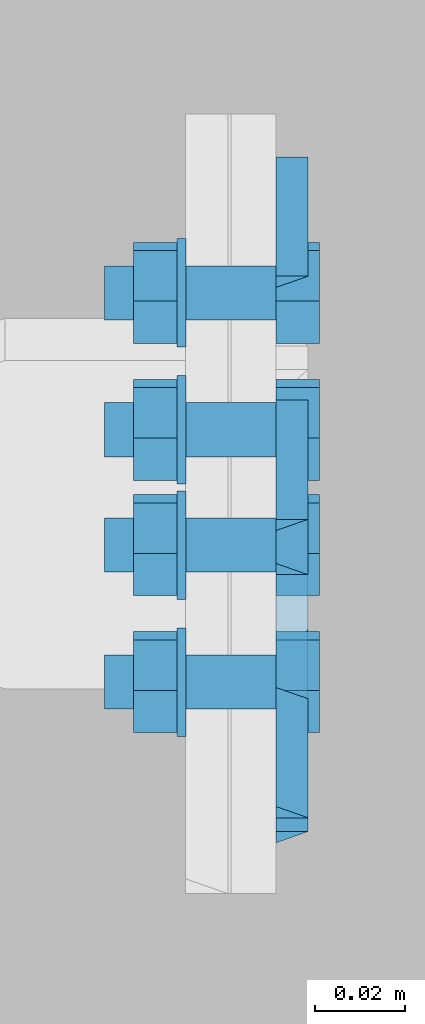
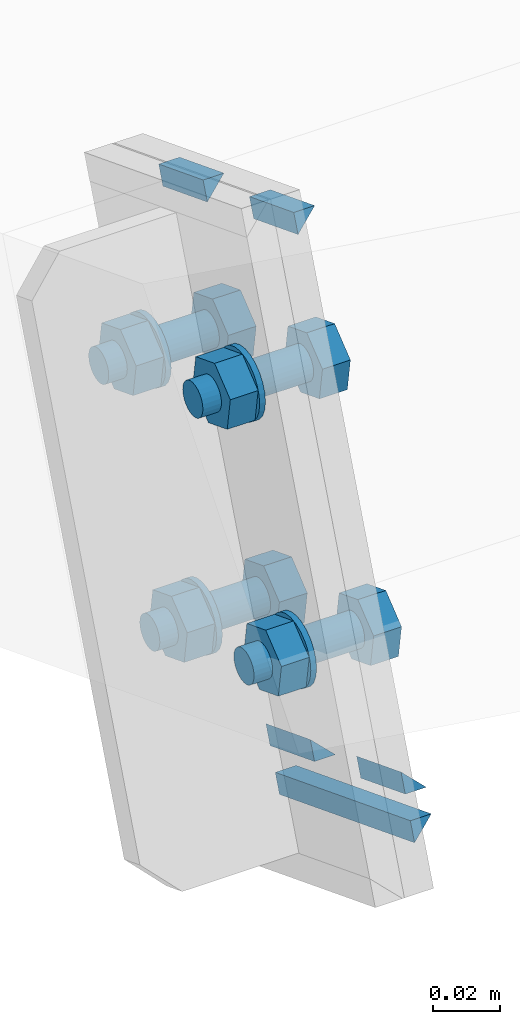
# One storey, part 30 of 72: 16 mechanical fasteners, 10 fasteners.
"""IFC4 building model written with IfcOpenShell, lengths in metres."""

from ifc_helpers import new_model, si_unit, frame, origin_with_axes, place, context, project, spatial, polyline, outline, extrude, type_object, element, save


model = new_model("IFC4")

# Units and contexts
model_context = context("Model", 3, precision=1e-05, world=origin_with_axes())
ifc_project = project(units=[si_unit("LENGTHUNIT", "METRE"), si_unit("AREAUNIT", "SQUARE_METRE"), si_unit("VOLUMEUNIT", "CUBIC_METRE"), si_unit("MASSUNIT", "GRAM", prefix="KILO"), si_unit("TIMEUNIT", "SECOND"), si_unit("PLANEANGLEUNIT", "RADIAN"), si_unit("SOLIDANGLEUNIT", "STERADIAN"), si_unit("THERMODYNAMICTEMPERATUREUNIT", "DEGREE_CELSIUS")], contexts=[model_context])

# Site, building, storey
placement_1 = place(None, origin_with_axes())
site = spatial("IfcSite", under=ifc_project, at=placement_1, Name="Italia", CompositionType="ELEMENT")
building = spatial("IfcBuilding", under=site, at=placement_1, Name="Uffici", CompositionType="ELEMENT")
storey = spatial("IfcBuildingStorey", under=building, at=placement_1, Name="Storey 0", CompositionType="ELEMENT", Elevation=0.0)

# Fasteners
fastener_type_1 = type_object("IfcFastenerType", Name="Collegamento -016_-017", PredefinedType="WELD")
placement_2 = place(placement_1, origin_with_axes())
fastener_1_placement = place(placement_2, origin_with_axes())
element("IfcFastener", 1, at=fastener_1_placement, inside=storey, type_object=fastener_type_1, Name="Collegamento -016_-017", context=model_context, shape_type="SweptSolid", body=[
    extrude(outline(polyline([(0.0, 0.0), (-0.00717336, 0.00695801), (0.0, 0.00695801), (0.0, 0.0)])), frame((0.07495, 3.27485, 5.95364), z_axis=(0.0, 0.93237841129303, -0.361483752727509), x_axis=(-1.0, 0.0, 0.0)), (0.0, 0.0, 1.0), 0.0283002),
])
fastener_type_2 = type_object("IfcFastenerType", Name="Collegamento -016_-017", PredefinedType="WELD")
fastener_2_placement = place(placement_2, origin_with_axes())
element("IfcFastener", 2, at=fastener_2_placement, inside=storey, type_object=fastener_type_2, Name="Collegamento -016_-017", context=model_context, shape_type="SweptSolid", body=[
    extrude(outline(polyline([(0.0, 0.0), (0.00717336, -0.00695801), (0.0, -0.00695801), (0.0, 0.0)])), frame((0.07495, 3.24008, 5.78566), z_axis=(0.0, -0.932389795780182, 0.361454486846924), x_axis=(1.0, 0.0, 0.0)), (0.0, 0.0, 1.0), 0.0282999),
])
fastener_type_3 = type_object("IfcFastenerType", Name="Collegamento -016_-017", PredefinedType="WELD")
fastener_3_placement = place(placement_2, origin_with_axes())
element("IfcFastener", 3, at=fastener_3_placement, inside=storey, type_object=fastener_type_3, Name="Collegamento -016_-017", context=model_context, shape_type="SweptSolid", body=[
    extrude(outline(polyline([(0.0, 0.0), (-0.00717336, 0.00695848), (0.0, 0.00695848), (0.0, 0.0)])), frame((0.07495, 3.15174, 5.79598), z_axis=(0.0, 0.932387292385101, -0.361460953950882), x_axis=(-1.0, 0.0, 0.0)), (0.0, 0.0, 1.0), 0.0860998),
])
fastener_type_4 = type_object("IfcFastenerType", Name="Collegamento -016_-017", PredefinedType="WELD")
fastener_4_placement = place(placement_2, origin_with_axes())
element("IfcFastener", 4, at=fastener_4_placement, inside=storey, type_object=fastener_type_4, Name="Collegamento -016_-017", context=model_context, shape_type="SweptSolid", body=[
    extrude(outline(polyline([(0.0, 0.0), (0.00717336, -0.00695753), (0.0, -0.00695753), (0.0, 0.0)])), frame((0.07495, 3.18619, 5.80655), z_axis=(0.0, -0.932380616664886, 0.361478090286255), x_axis=(1.0, 0.0, 0.0)), (0.0, 0.0, 1.0), 0.0283007),
])
fastener_type_5 = type_object("IfcFastenerType", Name="Collegamento -016_-017", PredefinedType="WELD")
fastener_5_placement = place(placement_2, origin_with_axes())
element("IfcFastener", 5, at=fastener_5_placement, inside=storey, type_object=fastener_type_5, Name="Collegamento -016_-017", context=model_context, shape_type="SweptSolid", body=[
    extrude(outline(polyline([(0.0, 0.0), (-0.00717336, 0.00695801), (0.0, 0.00695801), (0.0, 0.0)])), frame((0.07495, 3.22096, 5.97453), z_axis=(0.0, 0.932388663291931, -0.361457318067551), x_axis=(-1.0, 0.0, 0.0)), (0.0, 0.0, 1.0), 0.0282996),
])
fastener_type_6 = type_object("IfcFastenerType", Name="Collegamento -016_-017", PredefinedType="WELD")
fastener_6_placement = place(placement_2, origin_with_axes())
element("IfcFastener", 6, at=fastener_6_placement, inside=storey, type_object=fastener_type_6, Name="Collegamento -016_-017", context=model_context, shape_type="SweptSolid", body=[
    extrude(outline(polyline([(0.0, 0.0), (-0.00717336, 0.00695801), (0.0, 0.00695801), (0.0, 0.0)])), frame((0.07495, 3.27485, 5.95364), z_axis=(0.0, 0.93237841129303, -0.361483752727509), x_axis=(-1.0, 0.0, 0.0)), (0.0, 0.0, 1.0), 0.0283002),
])
fastener_type_7 = type_object("IfcFastenerType", Name="Collegamento -016_-017", PredefinedType="WELD")
fastener_7_placement = place(placement_2, origin_with_axes())
element("IfcFastener", 7, at=fastener_7_placement, inside=storey, type_object=fastener_type_7, Name="Collegamento -016_-017", context=model_context, shape_type="SweptSolid", body=[
    extrude(outline(polyline([(0.0, 0.0), (0.00717336, -0.00695801), (0.0, -0.00695801), (0.0, 0.0)])), frame((0.07495, 3.24008, 5.78566), z_axis=(0.0, -0.932389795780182, 0.361454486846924), x_axis=(1.0, 0.0, 0.0)), (0.0, 0.0, 1.0), 0.0282999),
])
fastener_type_8 = type_object("IfcFastenerType", Name="Collegamento -016_-017", PredefinedType="WELD")
fastener_8_placement = place(placement_2, origin_with_axes())
element("IfcFastener", 8, at=fastener_8_placement, inside=storey, type_object=fastener_type_8, Name="Collegamento -016_-017", context=model_context, shape_type="SweptSolid", body=[
    extrude(outline(polyline([(0.0, 0.0), (-0.00717336, 0.00695848), (0.0, 0.00695848), (0.0, 0.0)])), frame((0.07495, 3.15174, 5.79598), z_axis=(0.0, 0.932387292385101, -0.361460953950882), x_axis=(-1.0, 0.0, 0.0)), (0.0, 0.0, 1.0), 0.0860998),
])
fastener_type_9 = type_object("IfcFastenerType", Name="Collegamento -016_-017", PredefinedType="WELD")
fastener_9_placement = place(placement_2, origin_with_axes())
element("IfcFastener", 9, at=fastener_9_placement, inside=storey, type_object=fastener_type_9, Name="Collegamento -016_-017", context=model_context, shape_type="SweptSolid", body=[
    extrude(outline(polyline([(0.0, 0.0), (0.00717336, -0.00695753), (0.0, -0.00695753), (0.0, 0.0)])), frame((0.07495, 3.18619, 5.80655), z_axis=(0.0, -0.932380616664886, 0.361478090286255), x_axis=(1.0, 0.0, 0.0)), (0.0, 0.0, 1.0), 0.0283007),
])
fastener_type_10 = type_object("IfcFastenerType", Name="Collegamento -016_-017", PredefinedType="WELD")
fastener_10_placement = place(placement_2, origin_with_axes())
element("IfcFastener", 10, at=fastener_10_placement, inside=storey, type_object=fastener_type_10, Name="Collegamento -016_-017", context=model_context, shape_type="SweptSolid", body=[
    extrude(outline(polyline([(0.0, 0.0), (-0.00717336, 0.00695801), (0.0, 0.00695801), (0.0, 0.0)])), frame((0.07495, 3.22096, 5.97453), z_axis=(0.0, 0.932388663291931, -0.361457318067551), x_axis=(-1.0, 0.0, 0.0)), (0.0, 0.0, 1.0), 0.0282996),
])

# Mechanical fasteners
mechanical_fastener_type_1 = type_object("IfcMechanicalFastenerType", Name="Collegamento -016_-017", PredefinedType="BOLT")
mechanical_fastener_1_placement = place(placement_2, origin_with_axes())
element("IfcMechanicalFastener", 11, at=mechanical_fastener_1_placement, inside=storey, type_object=mechanical_fastener_type_1, Name="Collegamento -016_-017", NominalDiameter=0.0119997, context=model_context, shape_type="SweptSolid", body=[
    extrude(outline(polyline([(0.0, 0.0), (-0.0111887, 0.00433779), (-0.0130265, 0.0161963), (-0.00367594, 0.0237169), (0.00751281, 0.0193796), (0.00935078, 0.00752115), (0.0, 0.0)])), frame((0.075, 3.18921, 5.83992), z_axis=(1.0, 0.0, 0.0), x_axis=(0.0, 1.0, 0.0)), (0.0, 0.0, 1.0), 0.0096),
])
mechanical_fastener_type_2 = type_object("IfcMechanicalFastenerType", Name="Collegamento -016_-017", PredefinedType="BOLT")
mechanical_fastener_2_placement = place(placement_2, origin_with_axes())
element("IfcMechanicalFastener", 12, at=mechanical_fastener_2_placement, inside=storey, type_object=mechanical_fastener_type_2, Name="Collegamento -016_-017", NominalDiameter=0.012, context=model_context, shape_type="SweptSolid", body=[
    extrude(outline(polyline([(0.0, 0.0), (-0.000204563, -0.00155306), (-0.000803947, -0.00299978), (-0.00175738, -0.00424242), (-0.00300002, -0.00519609), (-0.00444722, -0.00579548), (-0.00600004, -0.00600004), (-0.00755286, -0.00579548), (-0.00900006, -0.00519609), (-0.0102427, -0.00424242), (-0.0111961, -0.00299978), (-0.0117955, -0.00155306), (-0.0120001, 0.0), (-0.0117955, 0.00155306), (-0.0111961, 0.00299978), (-0.0102427, 0.00424242), (-0.00900006, 0.00519609), (-0.00755286, 0.00579548), (-0.00600004, 0.00600004), (-0.00444722, 0.00579548), (-0.00300002, 0.00519609), (-0.00175738, 0.00424242), (-0.000803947, 0.00299978), (-0.000204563, 0.00155306), (0.0, 0.0)])), frame((0.037, 3.19337, 5.85178), z_axis=(1.0, 0.0, 0.0), x_axis=(0.0, 1.0, 0.0)), (0.0, 0.0, 1.0), 0.038),
])
mechanical_fastener_type_3 = type_object("IfcMechanicalFastenerType", Name="Collegamento -016_-017", PredefinedType="BOLT")
mechanical_fastener_3_placement = place(placement_2, origin_with_axes())
element("IfcMechanicalFastener", 13, at=mechanical_fastener_3_placement, inside=storey, type_object=mechanical_fastener_type_3, Name="Collegamento -016_-017", NominalDiameter=0.0119997, context=model_context, shape_type="SweptSolid", body=[
    extrude(outline(polyline([(0.0, 0.0), (-0.0111887, 0.00433779), (-0.0130265, 0.0161963), (-0.00367594, 0.0237169), (0.00751281, 0.0193796), (0.00935078, 0.00752115), (0.0, 0.0)])), frame((0.0434, 3.18921, 5.83992), z_axis=(1.0, 0.0, 0.0), x_axis=(0.0, 1.0, 0.0)), (0.0, 0.0, 1.0), 0.0096),
])
mechanical_fastener_type_4 = type_object("IfcMechanicalFastenerType", Name="Collegamento -016_-017", PredefinedType="BOLT")
mechanical_fastener_4_placement = place(placement_2, origin_with_axes())
element("IfcMechanicalFastener", 14, at=mechanical_fastener_4_placement, inside=storey, type_object=mechanical_fastener_type_4, Name="Collegamento -016_-017", NominalDiameter=0.024, context=model_context, shape_type="SweptSolid", body=[
    extrude(outline(polyline([(0.0, 0.0), (-0.000408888, -0.00310564), (-0.00160789, -0.00600004), (-0.00351477, -0.00848532), (-0.00600004, -0.0103922), (-0.00889421, -0.011591), (-0.0120001, -0.0120001), (-0.015106, -0.011591), (-0.0180001, -0.0103922), (-0.0204854, -0.00848532), (-0.0223923, -0.00600004), (-0.0235913, -0.00310564), (-0.0240002, 0.0), (-0.0235913, 0.00310564), (-0.0223923, 0.00600004), (-0.0204854, 0.00848532), (-0.0180001, 0.0103922), (-0.015106, 0.011591), (-0.0120001, 0.0120001), (-0.00889421, 0.011591), (-0.00600004, 0.0103922), (-0.00351477, 0.00848532), (-0.00160789, 0.00600004), (-0.000408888, 0.00310564), (0.0, 0.0)])), frame((0.053, 3.19937, 5.85178), z_axis=(1.0, 0.0, 0.0), x_axis=(0.0, 1.0, 0.0)), (0.0, 0.0, 1.0), 0.002),
])
mechanical_fastener_type_5 = type_object("IfcMechanicalFastenerType", Name="Collegamento -016_-017", PredefinedType="BOLT")
mechanical_fastener_5_placement = place(placement_2, origin_with_axes())
element("IfcMechanicalFastener", 15, at=mechanical_fastener_5_placement, inside=storey, type_object=mechanical_fastener_type_5, Name="Collegamento -016_-017", NominalDiameter=0.0119999, context=model_context, shape_type="SweptSolid", body=[
    extrude(outline(polyline([(0.0, 0.0), (-0.0111887, 0.00433731), (-0.0130265, 0.0161958), (-0.00367594, 0.0237169), (0.00751281, 0.0193791), (0.00935078, 0.00752068), (0.0, 0.0)])), frame((0.075, 3.24515, 5.81823), z_axis=(1.0, 0.0, 0.0), x_axis=(0.0, 1.0, 0.0)), (0.0, 0.0, 1.0), 0.0096),
])
mechanical_fastener_type_6 = type_object("IfcMechanicalFastenerType", Name="Collegamento -016_-017", PredefinedType="BOLT")
mechanical_fastener_6_placement = place(placement_2, origin_with_axes())
element("IfcMechanicalFastener", 16, at=mechanical_fastener_6_placement, inside=storey, type_object=mechanical_fastener_type_6, Name="Collegamento -016_-017", NominalDiameter=0.012, context=model_context, shape_type="SweptSolid", body=[
    extrude(outline(polyline([(0.0, 0.0), (-0.000204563, -0.00155306), (-0.000803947, -0.00299978), (-0.00175738, -0.00424242), (-0.00300002, -0.00519609), (-0.00444722, -0.00579548), (-0.00600004, -0.00600004), (-0.00755286, -0.00579548), (-0.00900006, -0.00519609), (-0.0102427, -0.00424242), (-0.0111961, -0.00299978), (-0.0117955, -0.00155306), (-0.0120001, 0.0), (-0.0117955, 0.00155306), (-0.0111961, 0.00299978), (-0.0102427, 0.00424242), (-0.00900006, 0.00519609), (-0.00755286, 0.00579548), (-0.00600004, 0.00600004), (-0.00444722, 0.00579548), (-0.00300002, 0.00519609), (-0.00175738, 0.00424242), (-0.000803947, 0.00299978), (-0.000204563, 0.00155306), (0.0, 0.0)])), frame((0.037, 3.24931, 5.83009), z_axis=(1.0, 0.0, 0.0), x_axis=(0.0, 1.0, 0.0)), (0.0, 0.0, 1.0), 0.038),
])
mechanical_fastener_type_7 = type_object("IfcMechanicalFastenerType", Name="Collegamento -016_-017", PredefinedType="BOLT")
mechanical_fastener_7_placement = place(placement_2, origin_with_axes())
element("IfcMechanicalFastener", 17, at=mechanical_fastener_7_placement, inside=storey, type_object=mechanical_fastener_type_7, Name="Collegamento -016_-017", NominalDiameter=0.0119999, context=model_context, shape_type="SweptSolid", body=[
    extrude(outline(polyline([(0.0, 0.0), (-0.0111887, 0.00433731), (-0.0130265, 0.0161958), (-0.00367594, 0.0237169), (0.00751281, 0.0193791), (0.00935078, 0.00752068), (0.0, 0.0)])), frame((0.0434, 3.24515, 5.81823), z_axis=(1.0, 0.0, 0.0), x_axis=(0.0, 1.0, 0.0)), (0.0, 0.0, 1.0), 0.0096),
])
mechanical_fastener_type_8 = type_object("IfcMechanicalFastenerType", Name="Collegamento -016_-017", PredefinedType="BOLT")
mechanical_fastener_8_placement = place(placement_2, origin_with_axes())
element("IfcMechanicalFastener", 18, at=mechanical_fastener_8_placement, inside=storey, type_object=mechanical_fastener_type_8, Name="Collegamento -016_-017", NominalDiameter=0.024, context=model_context, shape_type="SweptSolid", body=[
    extrude(outline(polyline([(0.0, 0.0), (-0.000408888, -0.00310564), (-0.00160789, -0.00600004), (-0.00351477, -0.00848532), (-0.00600004, -0.0103922), (-0.00889421, -0.011591), (-0.0120001, -0.0120001), (-0.015106, -0.011591), (-0.0180001, -0.0103922), (-0.0204854, -0.00848532), (-0.0223923, -0.00600004), (-0.0235913, -0.00310564), (-0.0240002, 0.0), (-0.0235913, 0.00310564), (-0.0223923, 0.00600004), (-0.0204854, 0.00848532), (-0.0180001, 0.0103922), (-0.015106, 0.011591), (-0.0120001, 0.0120001), (-0.00889421, 0.011591), (-0.00600004, 0.0103922), (-0.00351477, 0.00848532), (-0.00160789, 0.00600004), (-0.000408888, 0.00310564), (0.0, 0.0)])), frame((0.053, 3.25531, 5.83009), z_axis=(1.0, 0.0, 0.0), x_axis=(0.0, 1.0, 0.0)), (0.0, 0.0, 1.0), 0.002),
])
mechanical_fastener_type_9 = type_object("IfcMechanicalFastenerType", Name="Collegamento -016_-017", PredefinedType="BOLT")
mechanical_fastener_9_placement = place(placement_2, origin_with_axes())
element("IfcMechanicalFastener", 19, at=mechanical_fastener_9_placement, inside=storey, type_object=mechanical_fastener_type_9, Name="Collegamento -016_-017", NominalDiameter=0.0119999, context=model_context, shape_type="SweptSolid", body=[
    extrude(outline(polyline([(0.0, 0.0), (-0.0111887, 0.00433779), (-0.0130267, 0.0161963), (-0.00367594, 0.0237169), (0.00751281, 0.0193796), (0.00935054, 0.00752115), (0.0, 0.0)])), frame((0.075, 3.21957, 5.91824), z_axis=(1.0, 0.0, 0.0), x_axis=(0.0, 1.0, 0.0)), (0.0, 0.0, 1.0), 0.0096),
])
mechanical_fastener_type_10 = type_object("IfcMechanicalFastenerType", Name="Collegamento -016_-017", PredefinedType="BOLT")
mechanical_fastener_10_placement = place(placement_2, origin_with_axes())
element("IfcMechanicalFastener", 20, at=mechanical_fastener_10_placement, inside=storey, type_object=mechanical_fastener_type_10, Name="Collegamento -016_-017", NominalDiameter=0.012, context=model_context, shape_type="SweptSolid", body=[
    extrude(outline(polyline([(0.0, 0.0), (-0.000204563, -0.00155306), (-0.000803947, -0.00299978), (-0.00175738, -0.00424242), (-0.00300002, -0.00519609), (-0.00444722, -0.00579548), (-0.00600004, -0.00600004), (-0.00755286, -0.00579548), (-0.00900006, -0.00519609), (-0.0102427, -0.00424242), (-0.0111961, -0.00299978), (-0.0117955, -0.00155306), (-0.0120001, 0.0), (-0.0117955, 0.00155306), (-0.0111961, 0.00299978), (-0.0102427, 0.00424242), (-0.00900006, 0.00519609), (-0.00755286, 0.00579548), (-0.00600004, 0.00600004), (-0.00444722, 0.00579548), (-0.00300002, 0.00519609), (-0.00175738, 0.00424242), (-0.000803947, 0.00299978), (-0.000204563, 0.00155306), (0.0, 0.0)])), frame((0.037, 3.22373, 5.9301), z_axis=(1.0, 0.0, 0.0), x_axis=(0.0, 1.0, 0.0)), (0.0, 0.0, 1.0), 0.038),
])
mechanical_fastener_type_11 = type_object("IfcMechanicalFastenerType", Name="Collegamento -016_-017", PredefinedType="BOLT")
mechanical_fastener_11_placement = place(placement_2, origin_with_axes())
element("IfcMechanicalFastener", 21, at=mechanical_fastener_11_placement, inside=storey, type_object=mechanical_fastener_type_11, Name="Collegamento -016_-017", NominalDiameter=0.0119999, context=model_context, shape_type="SweptSolid", body=[
    extrude(outline(polyline([(0.0, 0.0), (-0.0111887, 0.00433779), (-0.0130267, 0.0161963), (-0.00367594, 0.0237169), (0.00751281, 0.0193796), (0.00935054, 0.00752115), (0.0, 0.0)])), frame((0.0434, 3.21957, 5.91824), z_axis=(1.0, 0.0, 0.0), x_axis=(0.0, 1.0, 0.0)), (0.0, 0.0, 1.0), 0.0096),
])
mechanical_fastener_type_12 = type_object("IfcMechanicalFastenerType", Name="Collegamento -016_-017", PredefinedType="BOLT")
mechanical_fastener_12_placement = place(placement_2, origin_with_axes())
element("IfcMechanicalFastener", 22, at=mechanical_fastener_12_placement, inside=storey, type_object=mechanical_fastener_type_12, Name="Collegamento -016_-017", NominalDiameter=0.024, context=model_context, shape_type="SweptSolid", body=[
    extrude(outline(polyline([(0.0, 0.0), (-0.000408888, -0.00310564), (-0.00160789, -0.00600004), (-0.00351477, -0.00848532), (-0.00600004, -0.0103922), (-0.00889421, -0.011591), (-0.0120001, -0.0120001), (-0.015106, -0.011591), (-0.0180001, -0.0103922), (-0.0204854, -0.00848532), (-0.0223923, -0.00600004), (-0.0235913, -0.00310564), (-0.0240002, 0.0), (-0.0235913, 0.00310564), (-0.0223923, 0.00600004), (-0.0204854, 0.00848532), (-0.0180001, 0.0103922), (-0.015106, 0.011591), (-0.0120001, 0.0120001), (-0.00889421, 0.011591), (-0.00600004, 0.0103922), (-0.00351477, 0.00848532), (-0.00160789, 0.00600004), (-0.000408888, 0.00310564), (0.0, 0.0)])), frame((0.053, 3.22973, 5.9301), z_axis=(1.0, 0.0, 0.0), x_axis=(0.0, 1.0, 0.0)), (0.0, 0.0, 1.0), 0.002),
])
mechanical_fastener_type_13 = type_object("IfcMechanicalFastenerType", Name="Collegamento -016_-017", PredefinedType="BOLT")
mechanical_fastener_13_placement = place(placement_2, origin_with_axes())
element("IfcMechanicalFastener", 23, at=mechanical_fastener_13_placement, inside=storey, type_object=mechanical_fastener_type_13, Name="Collegamento -016_-017", NominalDiameter=0.0119997, context=model_context, shape_type="SweptSolid", body=[
    extrude(outline(polyline([(0.0, 0.0), (-0.0111887, 0.00433731), (-0.0130267, 0.0161958), (-0.00367594, 0.0237169), (0.00751281, 0.0193791), (0.00935054, 0.00752068), (0.0, 0.0)])), frame((0.075, 3.27551, 5.89655), z_axis=(1.0, 0.0, 0.0), x_axis=(0.0, 1.0, 0.0)), (0.0, 0.0, 1.0), 0.0096),
])
mechanical_fastener_type_14 = type_object("IfcMechanicalFastenerType", Name="Collegamento -016_-017", PredefinedType="BOLT")
mechanical_fastener_14_placement = place(placement_2, origin_with_axes())
element("IfcMechanicalFastener", 24, at=mechanical_fastener_14_placement, inside=storey, type_object=mechanical_fastener_type_14, Name="Collegamento -016_-017", NominalDiameter=0.012, context=model_context, shape_type="SweptSolid", body=[
    extrude(outline(polyline([(0.0, 0.0), (-0.000204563, -0.00155306), (-0.000803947, -0.00299978), (-0.00175738, -0.00424242), (-0.00300002, -0.00519609), (-0.00444722, -0.00579548), (-0.00600004, -0.00600004), (-0.00755286, -0.00579548), (-0.00900006, -0.00519609), (-0.0102427, -0.00424242), (-0.0111961, -0.00299978), (-0.0117955, -0.00155306), (-0.0120001, 0.0), (-0.0117955, 0.00155306), (-0.0111961, 0.00299978), (-0.0102427, 0.00424242), (-0.00900006, 0.00519609), (-0.00755286, 0.00579548), (-0.00600004, 0.00600004), (-0.00444722, 0.00579548), (-0.00300002, 0.00519609), (-0.00175738, 0.00424242), (-0.000803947, 0.00299978), (-0.000204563, 0.00155306), (0.0, 0.0)])), frame((0.037, 3.27967, 5.90841), z_axis=(1.0, 0.0, 0.0), x_axis=(0.0, 1.0, 0.0)), (0.0, 0.0, 1.0), 0.038),
])
mechanical_fastener_type_15 = type_object("IfcMechanicalFastenerType", Name="Collegamento -016_-017", PredefinedType="BOLT")
mechanical_fastener_15_placement = place(placement_2, origin_with_axes())
element("IfcMechanicalFastener", 25, at=mechanical_fastener_15_placement, inside=storey, type_object=mechanical_fastener_type_15, Name="Collegamento -016_-017", NominalDiameter=0.0119997, context=model_context, shape_type="SweptSolid", body=[
    extrude(outline(polyline([(0.0, 0.0), (-0.0111887, 0.00433731), (-0.0130267, 0.0161958), (-0.00367594, 0.0237169), (0.00751281, 0.0193791), (0.00935054, 0.00752068), (0.0, 0.0)])), frame((0.0434, 3.27551, 5.89655), z_axis=(1.0, 0.0, 0.0), x_axis=(0.0, 1.0, 0.0)), (0.0, 0.0, 1.0), 0.0096),
])
mechanical_fastener_type_16 = type_object("IfcMechanicalFastenerType", Name="Collegamento -016_-017", PredefinedType="BOLT")
mechanical_fastener_16_placement = place(placement_2, origin_with_axes())
element("IfcMechanicalFastener", 26, at=mechanical_fastener_16_placement, inside=storey, type_object=mechanical_fastener_type_16, Name="Collegamento -016_-017", NominalDiameter=0.024, context=model_context, shape_type="SweptSolid", body=[
    extrude(outline(polyline([(0.0, 0.0), (-0.000408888, -0.00310564), (-0.00160789, -0.00600004), (-0.00351477, -0.00848532), (-0.00600004, -0.0103922), (-0.00889421, -0.011591), (-0.0120001, -0.0120001), (-0.015106, -0.011591), (-0.0180001, -0.0103922), (-0.0204854, -0.00848532), (-0.0223923, -0.00600004), (-0.0235913, -0.00310564), (-0.0240002, 0.0), (-0.0235913, 0.00310564), (-0.0223923, 0.00600004), (-0.0204854, 0.00848532), (-0.0180001, 0.0103922), (-0.015106, 0.011591), (-0.0120001, 0.0120001), (-0.00889421, 0.011591), (-0.00600004, 0.0103922), (-0.00351477, 0.00848532), (-0.00160789, 0.00600004), (-0.000408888, 0.00310564), (0.0, 0.0)])), frame((0.053, 3.28567, 5.90841), z_axis=(1.0, 0.0, 0.0), x_axis=(0.0, 1.0, 0.0)), (0.0, 0.0, 1.0), 0.002),
])

save(model, "model.ifc")
